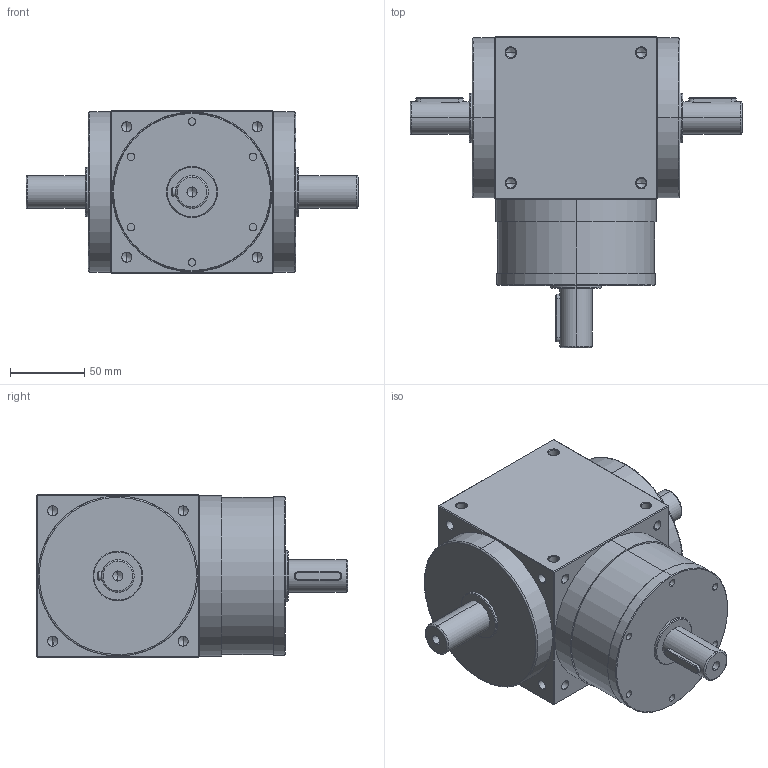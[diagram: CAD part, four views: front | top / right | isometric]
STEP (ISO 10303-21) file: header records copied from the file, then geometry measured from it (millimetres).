
FILE_DESCRIPTION (( 'STEP AP214' ), '1' );
FILE_NAME ('AT110-L-001.STEP', '2024-10-10T05:16:28', ( '微软用户' ), ( '微软中国' ), 'SwSTEP 2.0', 'SolidWorks 2021', '' );
FILE_SCHEMA (( 'AUTOMOTIVE_DESIGN' ));
Length unit declared in the file: millimetre
Products named in the file (1): AT110-L-001
Bounding box: 224 x 210 x 110 mm (x, y, z)
Volume: 2158200.5 mm3; surface area: 120579.4 mm2
Topology: 1 solids, 1 shells, 287 faces, 751 edges, 427 vertices
Faces by surface type: cylinder 142, cone 77, plane 58, bspline 10
Entity records: 9795 total; most frequent: CARTESIAN_POINT 2258, ORIENTED_EDGE 1394, DIRECTION 1301, EDGE_CURVE 697, AXIS2_PLACEMENT_3D 502, VERTEX_POINT 427, EDGE_LOOP 334, LINE 297
